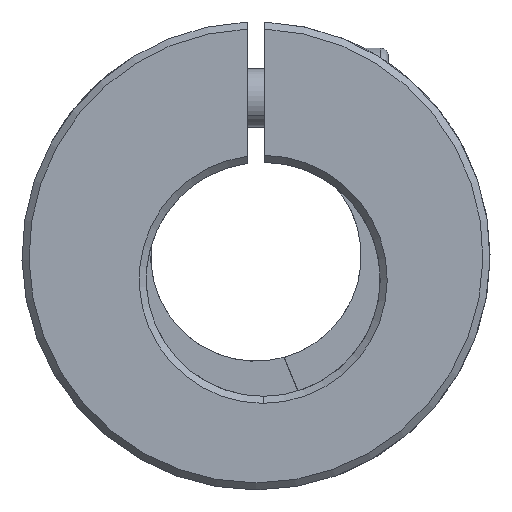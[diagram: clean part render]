
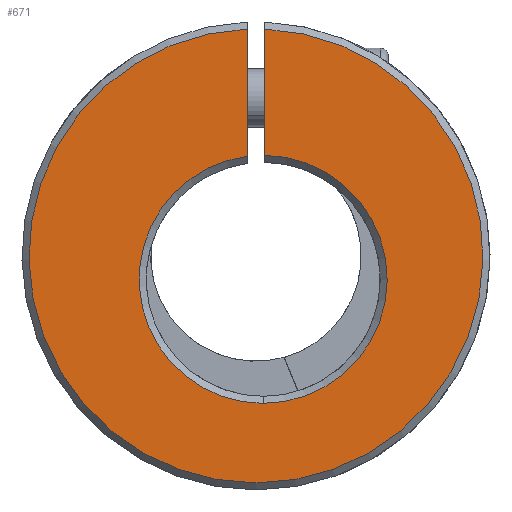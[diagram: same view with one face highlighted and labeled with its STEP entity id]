
A CAD part, front view. The second image highlights one B-rep face of the part: STEP entity #671.
In plain terms, the highlighted planar face has unit normal (0, -1, 0).
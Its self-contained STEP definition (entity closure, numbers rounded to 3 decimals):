
#101 = AXIS2_PLACEMENT_3D ( 'NONE', #1054, #5050, #3292 ) ;
#204 = EDGE_CURVE ( 'NONE', #3866, #2970, #3589, .T. ) ;
#212 = PLANE ( 'NONE',  #5403 ) ;
#671 = ADVANCED_FACE ( 'NONE', ( #2489 ), #212, .F. ) ;
#764 = DIRECTION ( 'NONE',  ( 0., 0., 1. ) ) ;
#845 = VECTOR ( 'NONE', #4004, 1000. ) ;
#899 = DIRECTION ( 'NONE',  ( 0., 1., 0. ) ) ;
#1042 = CIRCLE ( 'NONE', #2451, 10.6 ) ;
#1054 = CARTESIAN_POINT ( 'NONE',  ( 0., -30., 0. ) ) ;
#1154 = DIRECTION ( 'NONE',  ( 0., 0., 1. ) ) ;
#1159 = CARTESIAN_POINT ( 'NONE',  ( 0., -30., 0. ) ) ;
#1236 = ORIENTED_EDGE ( 'NONE', *, *, #4150, .T. ) ;
#1452 = ORIENTED_EDGE ( 'NONE', *, *, #2477, .T. ) ;
#1895 = CARTESIAN_POINT ( 'NONE',  ( -0.75, -30., 19.385 ) ) ;
#2152 = CARTESIAN_POINT ( 'NONE',  ( 0.617, -30., -12.6 ) ) ;
#2172 = CARTESIAN_POINT ( 'NONE',  ( -0.75, -30., -2. ) ) ;
#2218 = EDGE_LOOP ( 'NONE', ( #5552, #1236, #3702, #3378, #1452 ) ) ;
#2230 = DIRECTION ( 'NONE',  ( 0., 0., 1. ) ) ;
#2451 = AXIS2_PLACEMENT_3D ( 'NONE', #4406, #899, #2230 ) ;
#2477 = EDGE_CURVE ( 'NONE', #2581, #5004, #5380, .T. ) ;
#2489 = FACE_OUTER_BOUND ( 'NONE', #2218, .T. ) ;
#2581 = VERTEX_POINT ( 'NONE', #1895 ) ;
#2621 = CARTESIAN_POINT ( 'NONE',  ( 0.617, -30., -2. ) ) ;
#2711 = LINE ( 'NONE', #3897, #845 ) ;
#2970 = VERTEX_POINT ( 'NONE', #5429 ) ;
#3002 = LINE ( 'NONE', #2172, #3997 ) ;
#3043 = VERTEX_POINT ( 'NONE', #3609 ) ;
#3292 = DIRECTION ( 'NONE',  ( 0., 0., 1. ) ) ;
#3311 = EDGE_CURVE ( 'NONE', #5004, #3043, #2711, .T. ) ;
#3378 = ORIENTED_EDGE ( 'NONE', *, *, #5309, .T. ) ;
#3589 = CIRCLE ( 'NONE', #4719, 10.6 ) ;
#3609 = CARTESIAN_POINT ( 'NONE',  ( 0.75, -30., 8.599 ) ) ;
#3702 = ORIENTED_EDGE ( 'NONE', *, *, #204, .T. ) ;
#3808 = CARTESIAN_POINT ( 'NONE',  ( 0.75, -30., 19.385 ) ) ;
#3866 = VERTEX_POINT ( 'NONE', #2152 ) ;
#3897 = CARTESIAN_POINT ( 'NONE',  ( 0.75, -30., -2. ) ) ;
#3898 = DIRECTION ( 'NONE',  ( 0., 0., 1. ) ) ;
#3997 = VECTOR ( 'NONE', #1154, 1000. ) ;
#4004 = DIRECTION ( 'NONE',  ( 0., 0., -1. ) ) ;
#4150 = EDGE_CURVE ( 'NONE', #3043, #3866, #1042, .T. ) ;
#4391 = DIRECTION ( 'NONE',  ( 0., 1., 0. ) ) ;
#4406 = CARTESIAN_POINT ( 'NONE',  ( 0.617, -30., -2. ) ) ;
#4719 = AXIS2_PLACEMENT_3D ( 'NONE', #2621, #4391, #764 ) ;
#4802 = DIRECTION ( 'NONE',  ( 0., 1., 0. ) ) ;
#5004 = VERTEX_POINT ( 'NONE', #3808 ) ;
#5050 = DIRECTION ( 'NONE',  ( 0., -1., 0. ) ) ;
#5309 = EDGE_CURVE ( 'NONE', #2970, #2581, #3002, .T. ) ;
#5380 = CIRCLE ( 'NONE', #101, 19.4 ) ;
#5403 = AXIS2_PLACEMENT_3D ( 'NONE', #1159, #4802, #3898 ) ;
#5429 = CARTESIAN_POINT ( 'NONE',  ( -0.75, -30., 8.511 ) ) ;
#5552 = ORIENTED_EDGE ( 'NONE', *, *, #3311, .T. ) ;
